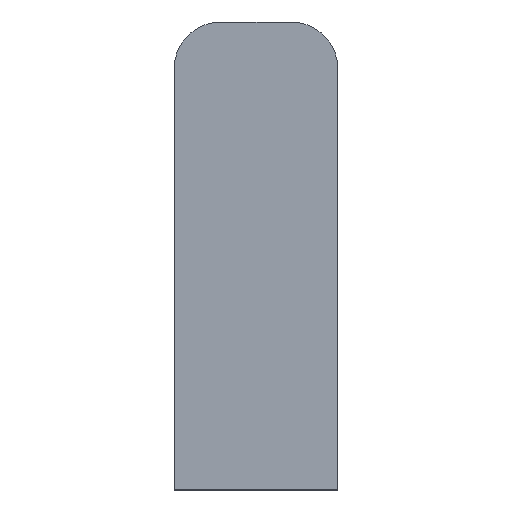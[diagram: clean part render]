
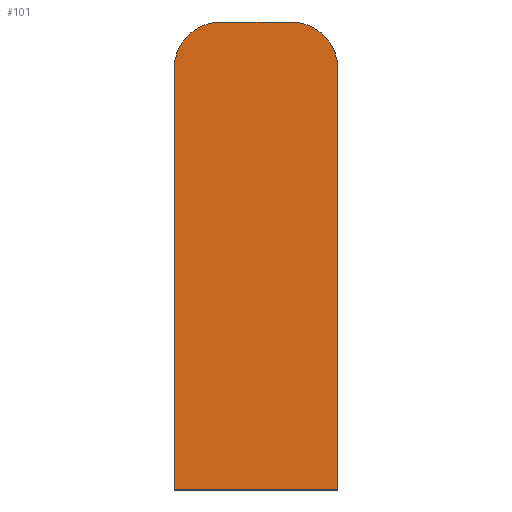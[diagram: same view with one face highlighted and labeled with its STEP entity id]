
A CAD part, front view. The second image highlights one B-rep face of the part: STEP entity #101.
In plain terms, the highlighted planar face has unit normal (0, -1, 0).
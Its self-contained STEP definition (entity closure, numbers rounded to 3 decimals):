
#8 = DIRECTION ( 'NONE',  ( -1., 0., 0. ) ) ;
#9 = DIRECTION ( 'NONE',  ( 0., -1., 0. ) ) ;
#11 = CARTESIAN_POINT ( 'NONE',  ( 2.25, 0., 10.5 ) ) ;
#12 = DIRECTION ( 'NONE',  ( 0., 1., 0. ) ) ;
#13 = DIRECTION ( 'NONE',  ( -1., 0., 0. ) ) ;
#17 = CARTESIAN_POINT ( 'NONE',  ( 2.25, 0., 13.5 ) ) ;
#18 = DIRECTION ( 'NONE',  ( 0., 0., 1. ) ) ;
#19 = CARTESIAN_POINT ( 'NONE',  ( 5.25, 0., -16.5 ) ) ;
#25 = DIRECTION ( 'NONE',  ( 0., -1., 0. ) ) ;
#27 = CARTESIAN_POINT ( 'NONE',  ( 0., 0., -1.5 ) ) ;
#30 = DIRECTION ( 'NONE',  ( -1., 0., 0. ) ) ;
#31 = CARTESIAN_POINT ( 'NONE',  ( -2.25, 0., 10.5 ) ) ;
#38 = PLANE ( 'NONE',  #203 ) ;
#45 = DIRECTION ( 'NONE',  ( -1., 0., 0. ) ) ;
#55 = CARTESIAN_POINT ( 'NONE',  ( 5.25, 0., -16.5 ) ) ;
#56 = DIRECTION ( 'NONE',  ( 1., 0., 0. ) ) ;
#61 = CARTESIAN_POINT ( 'NONE',  ( -5.25, 0., -16.5 ) ) ;
#62 = CARTESIAN_POINT ( 'NONE',  ( 5.25, 0., -16.5 ) ) ;
#65 = CARTESIAN_POINT ( 'NONE',  ( -5.25, 0., -16.5 ) ) ;
#66 = DIRECTION ( 'NONE',  ( 0., 0., -1. ) ) ;
#69 = CARTESIAN_POINT ( 'NONE',  ( -2.25, 0., 13.5 ) ) ;
#70 = CARTESIAN_POINT ( 'NONE',  ( 2.25, 0., 13.5 ) ) ;
#73 = CARTESIAN_POINT ( 'NONE',  ( -5.25, 0., 10.5 ) ) ;
#74 = CARTESIAN_POINT ( 'NONE',  ( 5.25, 0., 10.5 ) ) ;
#101 = ADVANCED_FACE ( 'NONE', ( #124 ), #38, .F. ) ;
#114 = EDGE_LOOP ( 'NONE', ( #144, #139, #131, #132, #142, #116 ) ) ;
#116 = ORIENTED_EDGE ( 'NONE', *, *, #226, .T. ) ;
#123 = CIRCLE ( 'NONE', #228, 3. ) ;
#124 = FACE_OUTER_BOUND ( 'NONE', #114, .T. ) ;
#131 = ORIENTED_EDGE ( 'NONE', *, *, #215, .T. ) ;
#132 = ORIENTED_EDGE ( 'NONE', *, *, #209, .T. ) ;
#139 = ORIENTED_EDGE ( 'NONE', *, *, #205, .T. ) ;
#142 = ORIENTED_EDGE ( 'NONE', *, *, #236, .T. ) ;
#144 = ORIENTED_EDGE ( 'NONE', *, *, #211, .T. ) ;
#158 = VECTOR ( 'NONE', #45, 1000. ) ;
#161 = LINE ( 'NONE', #19, #163 ) ;
#162 = CIRCLE ( 'NONE', #235, 3. ) ;
#163 = VECTOR ( 'NONE', #18, 1000. ) ;
#170 = LINE ( 'NONE', #17, #158 ) ;
#185 = VECTOR ( 'NONE', #66, 1000. ) ;
#188 = LINE ( 'NONE', #55, #189 ) ;
#189 = VECTOR ( 'NONE', #56, 1000. ) ;
#190 = LINE ( 'NONE', #61, #185 ) ;
#203 = AXIS2_PLACEMENT_3D ( 'NONE', #27, #12, #13 ) ;
#205 = EDGE_CURVE ( 'NONE', #266, #261, #123, .T. ) ;
#209 = EDGE_CURVE ( 'NONE', #258, #265, #162, .T. ) ;
#211 = EDGE_CURVE ( 'NONE', #252, #266, #161, .T. ) ;
#215 = EDGE_CURVE ( 'NONE', #261, #258, #170, .T. ) ;
#226 = EDGE_CURVE ( 'NONE', #256, #252, #188, .T. ) ;
#228 = AXIS2_PLACEMENT_3D ( 'NONE', #11, #25, #8 ) ;
#235 = AXIS2_PLACEMENT_3D ( 'NONE', #31, #9, #30 ) ;
#236 = EDGE_CURVE ( 'NONE', #265, #256, #190, .T. ) ;
#252 = VERTEX_POINT ( 'NONE', #62 ) ;
#256 = VERTEX_POINT ( 'NONE', #65 ) ;
#258 = VERTEX_POINT ( 'NONE', #69 ) ;
#261 = VERTEX_POINT ( 'NONE', #70 ) ;
#265 = VERTEX_POINT ( 'NONE', #73 ) ;
#266 = VERTEX_POINT ( 'NONE', #74 ) ;
